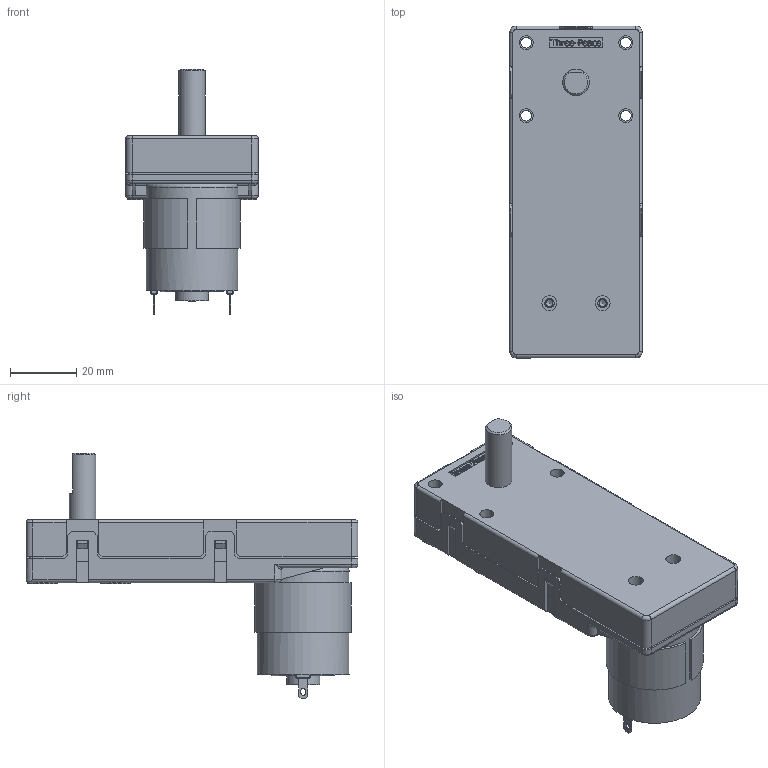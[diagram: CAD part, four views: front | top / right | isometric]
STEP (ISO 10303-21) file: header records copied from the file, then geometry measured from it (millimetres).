
FILE_DESCRIPTION(/* description */ (''),/* implementation_level */ '2;1');
FILE_NAME(/* name */ 'TP-2932#-IAL.stp',/* time_stamp */ '2024-01-10T11:29:22+09:00',/* author */ ('user'),/* organization */ (''),/* preprocessor_version */ 'ST-DEVELOPER v19.2',/* originating_system */ 'Autodesk Inventor 2024',/* authorisation */ '');
FILE_SCHEMA (('AUTOMOTIVE_DESIGN { 1 0 10303 214 3 1 1 }'));
Length unit declared in the file: millimetre
Products named in the file (6): TP-2932#-IAL-J00-24; IAL,IBL; KE0016-HP; KE0015-HP; DS0026-HP; TP-2932#(RS-365PH)
Assembly tree (5 placements, depth 3):
  TP-2932#-IAL-J00-24
    IAL,IBL
      KE0016-HP
      KE0015-HP
      DS0026-HP
    TP-2932#(RS-365PH)
Bounding box: 40 x 100 x 74 mm (x, y, z)
Volume: 90834.7 mm3; surface area: 29365.6 mm2
Topology: 4 solids, 4 shells, 745 faces, 1952 edges, 1276 vertices
Faces by surface type: plane 422, bspline 207, cylinder 98, torus 13, cone 5
Full cylindrical faces by diameter (mm): 2 x3, 2.113 x2, 2.3 x2, 2.5 x5, 2.8 x4, 3.242 x4, 4.2 x12, 4.5 x2, 8 x3, 9 x6, 10 x3, 19 x1, 26.7 x1, 27.7 x1
Entity records: 24928 total; most frequent: CARTESIAN_POINT 7408, ORIENTED_EDGE 3896, DIRECTION 2903, EDGE_CURVE 1948, VERTEX_POINT 1276, LINE 1271, VECTOR 1271, EDGE_LOOP 854
